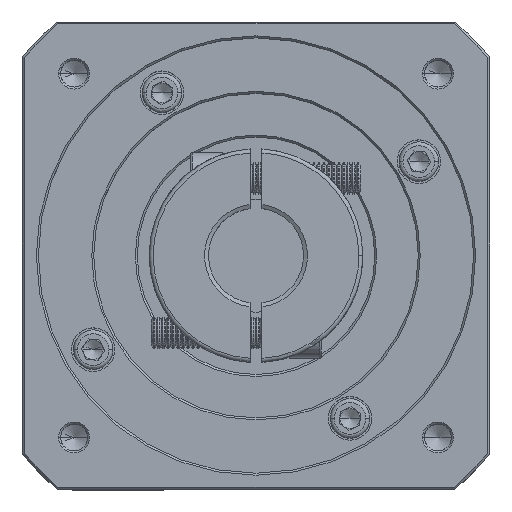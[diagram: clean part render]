
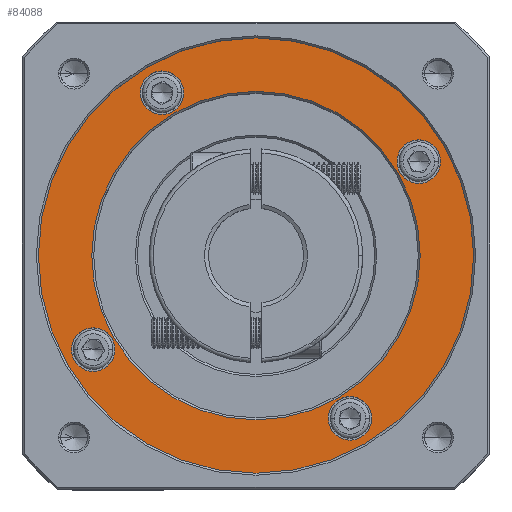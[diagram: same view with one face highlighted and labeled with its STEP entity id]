
A CAD part, top view. The second image highlights one B-rep face of the part: STEP entity #84088.
In plain terms, the highlighted planar face has unit normal (0, 0, 1).
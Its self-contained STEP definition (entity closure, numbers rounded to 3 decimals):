
#3353 = DIRECTION ( 'NONE',  ( 1., 0., 0. ) ) ;
#4245 = VERTEX_POINT ( 'NONE', #20471 ) ;
#5835 = DIRECTION ( 'NONE',  ( 0., 0., -1. ) ) ;
#5994 = DIRECTION ( 'NONE',  ( 0., -1., 0. ) ) ;
#6011 = CIRCLE ( 'NONE', #14187, 5.5 ) ;
#7697 = CARTESIAN_POINT ( 'NONE',  ( 111.233, 143.202, 23.935 ) ) ;
#8864 = AXIS2_PLACEMENT_3D ( 'NONE', #101646, #52188, #59602 ) ;
#8949 = DIRECTION ( 'NONE',  ( 1., 0., 0. ) ) ;
#9087 = CARTESIAN_POINT ( 'NONE',  ( 46.347, 160.588, 23.935 ) ) ;
#9290 = EDGE_CURVE ( 'NONE', #95331, #84269, #97281, .T. ) ;
#11214 = DIRECTION ( 'NONE',  ( 0., 0., 1. ) ) ;
#11798 = VERTEX_POINT ( 'NONE', #87716 ) ;
#12056 = CARTESIAN_POINT ( 'NONE',  ( 64.597, 160.952, 23.935 ) ) ;
#13957 = DIRECTION ( 'NONE',  ( 1., 0., 0. ) ) ;
#14187 = AXIS2_PLACEMENT_3D ( 'NONE', #42169, #25240, #32973 ) ;
#14903 = EDGE_CURVE ( 'NONE', #35466, #59391, #48818, .T. ) ;
#15918 = DIRECTION ( 'NONE',  ( 0., 0., 1. ) ) ;
#15945 = EDGE_LOOP ( 'NONE', ( #36539, #109158 ) ) ;
#17966 = VERTEX_POINT ( 'NONE', #96255 ) ;
#18277 = FACE_BOUND ( 'NONE', #74889, .T. ) ;
#20471 = CARTESIAN_POINT ( 'NONE',  ( 100.233, 143.202, 23.935 ) ) ;
#22878 = VERTEX_POINT ( 'NONE', #7697 ) ;
#22907 = EDGE_CURVE ( 'NONE', #17966, #101587, #6011, .T. ) ;
#23260 = EDGE_CURVE ( 'NONE', #4245, #22878, #62674, .T. ) ;
#23514 = ORIENTED_EDGE ( 'NONE', *, *, #14903, .T. ) ;
#23567 = DIRECTION ( 'NONE',  ( 0., 0., -1. ) ) ;
#23707 = AXIS2_PLACEMENT_3D ( 'NONE', #101885, #35057, #8949 ) ;
#24402 = DIRECTION ( 'NONE',  ( 1., 0., 0. ) ) ;
#24766 = PLANE ( 'NONE',  #85188 ) ;
#25240 = DIRECTION ( 'NONE',  ( 0., 0., -1. ) ) ;
#27480 = FACE_BOUND ( 'NONE', #68817, .T. ) ;
#28865 = EDGE_LOOP ( 'NONE', ( #23514, #79051 ) ) ;
#30689 = EDGE_CURVE ( 'NONE', #84269, #95331, #70552, .T. ) ;
#31329 = ORIENTED_EDGE ( 'NONE', *, *, #41237, .T. ) ;
#31472 = ORIENTED_EDGE ( 'NONE', *, *, #105626, .T. ) ;
#31740 = EDGE_CURVE ( 'NONE', #89469, #76528, #56923, .T. ) ;
#32973 = DIRECTION ( 'NONE',  ( 1., 0., 0. ) ) ;
#33247 = DIRECTION ( 'NONE',  ( 1., 0., 0. ) ) ;
#35057 = DIRECTION ( 'NONE',  ( 0., 0., -1. ) ) ;
#35466 = VERTEX_POINT ( 'NONE', #53198 ) ;
#36486 = DIRECTION ( 'NONE',  ( 0., 0., 1. ) ) ;
#36539 = ORIENTED_EDGE ( 'NONE', *, *, #22907, .T. ) ;
#37610 = DIRECTION ( 'NONE',  ( 0., 0., -1. ) ) ;
#38119 = EDGE_CURVE ( 'NONE', #101587, #17966, #81029, .T. ) ;
#38180 = EDGE_LOOP ( 'NONE', ( #31472, #76133 ) ) ;
#39476 = VERTEX_POINT ( 'NONE', #96944 ) ;
#39677 = CARTESIAN_POINT ( 'NONE',  ( 105.733, 143.202, 23.935 ) ) ;
#41116 = CARTESIAN_POINT ( 'NONE',  ( 105.733, 143.202, 23.935 ) ) ;
#41237 = EDGE_CURVE ( 'NONE', #22878, #4245, #70652, .T. ) ;
#42169 = CARTESIAN_POINT ( 'NONE',  ( 23.461, 95.702, 23.935 ) ) ;
#42934 = EDGE_CURVE ( 'NONE', #39476, #11798, #108513, .T. ) ;
#46346 = AXIS2_PLACEMENT_3D ( 'NONE', #62348, #69454, #103338 ) ;
#48431 = ORIENTED_EDGE ( 'NONE', *, *, #31740, .T. ) ;
#48818 = CIRCLE ( 'NONE', #46346, 41.5 ) ;
#49561 = AXIS2_PLACEMENT_3D ( 'NONE', #39677, #5835, #89129 ) ;
#52188 = DIRECTION ( 'NONE',  ( 0., 0., -1. ) ) ;
#53198 = CARTESIAN_POINT ( 'NONE',  ( 64.597, 77.952, 23.935 ) ) ;
#53641 = CARTESIAN_POINT ( 'NONE',  ( 64.597, 119.452, 23.935 ) ) ;
#55267 = FACE_OUTER_BOUND ( 'NONE', #38180, .T. ) ;
#56923 = CIRCLE ( 'NONE', #85349, 5.5 ) ;
#58136 = DIRECTION ( 'NONE',  ( 0., 0., -1. ) ) ;
#59391 = VERTEX_POINT ( 'NONE', #12056 ) ;
#59602 = DIRECTION ( 'NONE',  ( 1., 0., 0. ) ) ;
#61219 = EDGE_LOOP ( 'NONE', ( #48431, #71285 ) ) ;
#62137 = CIRCLE ( 'NONE', #102345, 5.5 ) ;
#62348 = CARTESIAN_POINT ( 'NONE',  ( 64.597, 119.452, 23.935 ) ) ;
#62674 = CIRCLE ( 'NONE', #49561, 5.5 ) ;
#63805 = DIRECTION ( 'NONE',  ( 1., 0., 0. ) ) ;
#64576 = CARTESIAN_POINT ( 'NONE',  ( 17.961, 95.702, 23.935 ) ) ;
#64810 = CIRCLE ( 'NONE', #69021, 55. ) ;
#64854 = ORIENTED_EDGE ( 'NONE', *, *, #23260, .T. ) ;
#65836 = FACE_BOUND ( 'NONE', #28865, .T. ) ;
#66600 = DIRECTION ( 'NONE',  ( 1., 0., 0. ) ) ;
#68354 = ORIENTED_EDGE ( 'NONE', *, *, #30689, .T. ) ;
#68817 = EDGE_LOOP ( 'NONE', ( #101809, #68354 ) ) ;
#69021 = AXIS2_PLACEMENT_3D ( 'NONE', #53641, #11214, #95695 ) ;
#69454 = DIRECTION ( 'NONE',  ( 0., 0., -1. ) ) ;
#70552 = CIRCLE ( 'NONE', #100016, 5.5 ) ;
#70652 = CIRCLE ( 'NONE', #77834, 5.5 ) ;
#71051 = EDGE_CURVE ( 'NONE', #76528, #89469, #62137, .T. ) ;
#71249 = CARTESIAN_POINT ( 'NONE',  ( 40.847, 160.588, 23.935 ) ) ;
#71285 = ORIENTED_EDGE ( 'NONE', *, *, #71051, .T. ) ;
#74889 = EDGE_LOOP ( 'NONE', ( #31329, #64854 ) ) ;
#76133 = ORIENTED_EDGE ( 'NONE', *, *, #42934, .T. ) ;
#76528 = VERTEX_POINT ( 'NONE', #86667 ) ;
#77834 = AXIS2_PLACEMENT_3D ( 'NONE', #41116, #58136, #66600 ) ;
#79051 = ORIENTED_EDGE ( 'NONE', *, *, #90379, .T. ) ;
#80058 = CARTESIAN_POINT ( 'NONE',  ( 64.597, 119.452, 23.935 ) ) ;
#80372 = FACE_BOUND ( 'NONE', #15945, .T. ) ;
#81029 = CIRCLE ( 'NONE', #8864, 5.5 ) ;
#81878 = CARTESIAN_POINT ( 'NONE',  ( 88.347, 78.316, 23.935 ) ) ;
#83066 = CARTESIAN_POINT ( 'NONE',  ( 64.597, 119.452, 23.935 ) ) ;
#84088 = ADVANCED_FACE ( 'NONE', ( #55267, #65836, #18277, #27480, #102765, #80372 ), #24766, .T. ) ;
#84269 = VERTEX_POINT ( 'NONE', #86138 ) ;
#85188 = AXIS2_PLACEMENT_3D ( 'NONE', #100435, #15918, #24402 ) ;
#85349 = AXIS2_PLACEMENT_3D ( 'NONE', #100423, #91579, #33247 ) ;
#86138 = CARTESIAN_POINT ( 'NONE',  ( 82.847, 78.316, 23.935 ) ) ;
#86667 = CARTESIAN_POINT ( 'NONE',  ( 35.347, 160.588, 23.935 ) ) ;
#87716 = CARTESIAN_POINT ( 'NONE',  ( 119.597, 119.452, 23.935 ) ) ;
#89129 = DIRECTION ( 'NONE',  ( 1., 0., 0. ) ) ;
#89469 = VERTEX_POINT ( 'NONE', #9087 ) ;
#90379 = EDGE_CURVE ( 'NONE', #59391, #35466, #101215, .T. ) ;
#91579 = DIRECTION ( 'NONE',  ( 0., 0., -1. ) ) ;
#91635 = AXIS2_PLACEMENT_3D ( 'NONE', #83066, #23567, #5994 ) ;
#95331 = VERTEX_POINT ( 'NONE', #100491 ) ;
#95695 = DIRECTION ( 'NONE',  ( 1., 0., 0. ) ) ;
#96255 = CARTESIAN_POINT ( 'NONE',  ( 28.961, 95.702, 23.935 ) ) ;
#96944 = CARTESIAN_POINT ( 'NONE',  ( 9.597, 119.452, 23.935 ) ) ;
#97281 = CIRCLE ( 'NONE', #23707, 5.5 ) ;
#100016 = AXIS2_PLACEMENT_3D ( 'NONE', #81878, #107680, #13957 ) ;
#100423 = CARTESIAN_POINT ( 'NONE',  ( 40.847, 160.588, 23.935 ) ) ;
#100435 = CARTESIAN_POINT ( 'NONE',  ( 64.597, 119.452, 23.935 ) ) ;
#100491 = CARTESIAN_POINT ( 'NONE',  ( 93.847, 78.316, 23.935 ) ) ;
#101215 = CIRCLE ( 'NONE', #91635, 41.5 ) ;
#101587 = VERTEX_POINT ( 'NONE', #64576 ) ;
#101646 = CARTESIAN_POINT ( 'NONE',  ( 23.461, 95.702, 23.935 ) ) ;
#101809 = ORIENTED_EDGE ( 'NONE', *, *, #9290, .T. ) ;
#101885 = CARTESIAN_POINT ( 'NONE',  ( 88.347, 78.316, 23.935 ) ) ;
#102345 = AXIS2_PLACEMENT_3D ( 'NONE', #71249, #37610, #63805 ) ;
#102765 = FACE_BOUND ( 'NONE', #61219, .T. ) ;
#103338 = DIRECTION ( 'NONE',  ( 0., -1., 0. ) ) ;
#105626 = EDGE_CURVE ( 'NONE', #11798, #39476, #64810, .T. ) ;
#107680 = DIRECTION ( 'NONE',  ( 0., 0., -1. ) ) ;
#107732 = AXIS2_PLACEMENT_3D ( 'NONE', #80058, #36486, #3353 ) ;
#108513 = CIRCLE ( 'NONE', #107732, 55. ) ;
#109158 = ORIENTED_EDGE ( 'NONE', *, *, #38119, .T. ) ;
